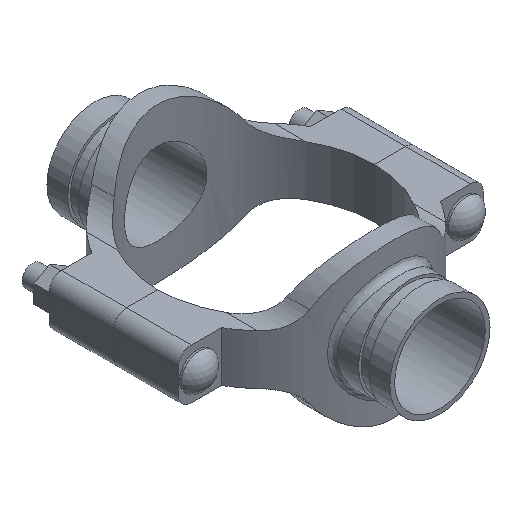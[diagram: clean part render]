
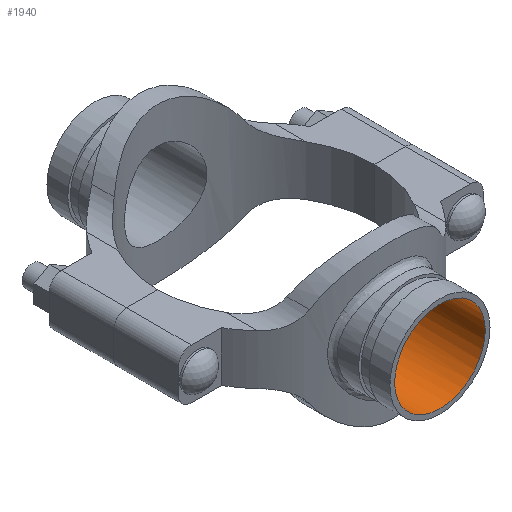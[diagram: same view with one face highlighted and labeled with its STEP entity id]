
A CAD part, isometric view. The second image highlights one B-rep face of the part: STEP entity #1940.
In plain terms, the highlighted cylindrical face has radius 34.493 mm (diameter 68.986 mm), a full revolution.
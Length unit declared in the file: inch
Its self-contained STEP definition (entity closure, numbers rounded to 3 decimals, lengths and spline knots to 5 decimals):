
#48=B_SPLINE_CURVE_WITH_KNOTS('',3,(#3964,#3965,#3966,#3967,#3968,#3969,
#3970,#3971,#3972,#3973,#3974,#3975,#3976,#3977,#3978,#3979,#3980,#3981,
#3982,#3983,#3984,#3985,#3986,#3987,#3988,#3989,#3990,#3991,#3992,#3993,
#3994,#3995,#3996,#3997,#3998,#3999,#4000,#4001,#4002,#4003,#4004,#4005,
#4006,#4007,#4008,#4009,#4010,#4011,#4012,#4013,#4014,#4015,#4016,#4017,
#4018,#4019,#4020,#4021,#4022,#4023,#4024,#4025,#4026,#4027,#4028,#4029),
 .UNSPECIFIED.,.T.,.F.,(4,2,2,2,2,2,2,2,2,2,2,2,2,2,2,2,2,2,2,2,2,2,2,2,
2,2,2,2,2,2,2,2,4),(0.,0.65894,1.31787,1.97681,
2.63574,3.29387,3.952,4.61013,5.26826,
5.92639,6.58452,7.24265,7.90078,8.55972,
9.21865,9.87759,10.53652,11.19546,11.8544,
12.51333,13.17227,13.8304,14.48853,15.14666,
15.80479,16.46292,17.12105,17.77918,18.4373,
19.09624,19.75518,20.41411,21.07305),
 .UNSPECIFIED.);
#91=CYLINDRICAL_SURFACE('',#2173,1.358);
#206=FACE_OUTER_BOUND('',#326,.T.);
#326=EDGE_LOOP('',(#1556,#1557,#1558,#1559));
#474=LINE('',#3963,#620);
#620=VECTOR('',#2628,1.358);
#720=CIRCLE('',#2174,1.358);
#881=VERTEX_POINT('',#3960);
#882=VERTEX_POINT('',#3962);
#1120=EDGE_CURVE('',#881,#881,#720,.T.);
#1121=EDGE_CURVE('',#881,#882,#474,.T.);
#1122=EDGE_CURVE('',#882,#882,#48,.T.);
#1556=ORIENTED_EDGE('',*,*,#1120,.F.);
#1557=ORIENTED_EDGE('',*,*,#1121,.T.);
#1558=ORIENTED_EDGE('',*,*,#1122,.F.);
#1559=ORIENTED_EDGE('',*,*,#1121,.F.);
#1940=ADVANCED_FACE('',(#206),#91,.F.);
#2173=AXIS2_PLACEMENT_3D('',#3959,#2624,#2625);
#2174=AXIS2_PLACEMENT_3D('',#3961,#2626,#2627);
#2624=DIRECTION('center_axis',(0.,-1.,0.));
#2625=DIRECTION('ref_axis',(-1.,0.,0.));
#2626=DIRECTION('center_axis',(0.,-1.,0.));
#2627=DIRECTION('ref_axis',(-1.,0.,0.));
#2628=DIRECTION('',(0.,-1.,0.));
#3959=CARTESIAN_POINT('Origin',(0.,5.21,0.));
#3960=CARTESIAN_POINT('',(1.358,5.21,0.));
#3961=CARTESIAN_POINT('Origin',(0.,5.21,0.));
#3962=CARTESIAN_POINT('',(1.358,2.95268,0.));
#3963=CARTESIAN_POINT('',(1.358,5.21,0.));
#3964=CARTESIAN_POINT('Ctrl Pts',(1.358,2.95268,0.));
#3965=CARTESIAN_POINT('Ctrl Pts',(1.358,2.95268,-0.08647));
#3966=CARTESIAN_POINT('Ctrl Pts',(1.34961,2.95659,-0.1755));
#3967=CARTESIAN_POINT('Ctrl Pts',(1.3147,2.97227,-0.35185));
#3968=CARTESIAN_POINT('Ctrl Pts',(1.2882,2.98403,-0.43917));
#3969=CARTESIAN_POINT('Ctrl Pts',(1.21861,3.01312,-0.60607));
#3970=CARTESIAN_POINT('Ctrl Pts',(1.17547,3.03044,-0.6858));
#3971=CARTESIAN_POINT('Ctrl Pts',(1.07616,3.06711,-0.83302));
#3972=CARTESIAN_POINT('Ctrl Pts',(1.01999,3.08643,-0.90052));
#3973=CARTESIAN_POINT('Ctrl Pts',(0.90059,3.12335,-1.01991));
#3974=CARTESIAN_POINT('Ctrl Pts',(0.83313,3.14231,-1.07608));
#3975=CARTESIAN_POINT('Ctrl Pts',(0.68589,3.1777,-1.17542));
#3976=CARTESIAN_POINT('Ctrl Pts',(0.60611,3.1941,-1.2186));
#3977=CARTESIAN_POINT('Ctrl Pts',(0.4391,3.22131,-1.28823));
#3978=CARTESIAN_POINT('Ctrl Pts',(0.35172,3.23212,-1.31474));
#3979=CARTESIAN_POINT('Ctrl Pts',(0.17536,3.24647,-1.34963));
#3980=CARTESIAN_POINT('Ctrl Pts',(0.08637,3.25,-1.358));
#3981=CARTESIAN_POINT('Ctrl Pts',(-0.08637,3.25,-1.358));
#3982=CARTESIAN_POINT('Ctrl Pts',(-0.17536,3.24647,-1.34963));
#3983=CARTESIAN_POINT('Ctrl Pts',(-0.35172,3.23212,-1.31474));
#3984=CARTESIAN_POINT('Ctrl Pts',(-0.4391,3.22131,-1.28823));
#3985=CARTESIAN_POINT('Ctrl Pts',(-0.60611,3.1941,-1.2186));
#3986=CARTESIAN_POINT('Ctrl Pts',(-0.68589,3.1777,-1.17542));
#3987=CARTESIAN_POINT('Ctrl Pts',(-0.83313,3.14231,-1.07608));
#3988=CARTESIAN_POINT('Ctrl Pts',(-0.90059,3.12335,-1.01991));
#3989=CARTESIAN_POINT('Ctrl Pts',(-1.01999,3.08643,-0.90052));
#3990=CARTESIAN_POINT('Ctrl Pts',(-1.07616,3.06711,-0.83302));
#3991=CARTESIAN_POINT('Ctrl Pts',(-1.17547,3.03044,-0.6858));
#3992=CARTESIAN_POINT('Ctrl Pts',(-1.21861,3.01312,-0.60607));
#3993=CARTESIAN_POINT('Ctrl Pts',(-1.2882,2.98403,-0.43917));
#3994=CARTESIAN_POINT('Ctrl Pts',(-1.3147,2.97227,-0.35185));
#3995=CARTESIAN_POINT('Ctrl Pts',(-1.34961,2.95659,-0.1755));
#3996=CARTESIAN_POINT('Ctrl Pts',(-1.358,2.95268,-0.08647));
#3997=CARTESIAN_POINT('Ctrl Pts',(-1.358,2.95268,0.08647));
#3998=CARTESIAN_POINT('Ctrl Pts',(-1.34961,2.95659,0.1755));
#3999=CARTESIAN_POINT('Ctrl Pts',(-1.3147,2.97227,0.35185));
#4000=CARTESIAN_POINT('Ctrl Pts',(-1.2882,2.98403,0.43917));
#4001=CARTESIAN_POINT('Ctrl Pts',(-1.21861,3.01312,0.60607));
#4002=CARTESIAN_POINT('Ctrl Pts',(-1.17547,3.03044,0.6858));
#4003=CARTESIAN_POINT('Ctrl Pts',(-1.07616,3.06711,0.83302));
#4004=CARTESIAN_POINT('Ctrl Pts',(-1.01999,3.08643,0.90052));
#4005=CARTESIAN_POINT('Ctrl Pts',(-0.90059,3.12335,1.01991));
#4006=CARTESIAN_POINT('Ctrl Pts',(-0.83313,3.14231,1.07608));
#4007=CARTESIAN_POINT('Ctrl Pts',(-0.68589,3.1777,1.17542));
#4008=CARTESIAN_POINT('Ctrl Pts',(-0.60611,3.1941,1.2186));
#4009=CARTESIAN_POINT('Ctrl Pts',(-0.4391,3.22131,1.28823));
#4010=CARTESIAN_POINT('Ctrl Pts',(-0.35172,3.23212,1.31474));
#4011=CARTESIAN_POINT('Ctrl Pts',(-0.17536,3.24647,1.34963));
#4012=CARTESIAN_POINT('Ctrl Pts',(-0.08637,3.25,1.358));
#4013=CARTESIAN_POINT('Ctrl Pts',(0.08637,3.25,1.358));
#4014=CARTESIAN_POINT('Ctrl Pts',(0.17536,3.24647,1.34963));
#4015=CARTESIAN_POINT('Ctrl Pts',(0.35172,3.23212,1.31474));
#4016=CARTESIAN_POINT('Ctrl Pts',(0.4391,3.22131,1.28823));
#4017=CARTESIAN_POINT('Ctrl Pts',(0.60611,3.1941,1.2186));
#4018=CARTESIAN_POINT('Ctrl Pts',(0.68589,3.1777,1.17542));
#4019=CARTESIAN_POINT('Ctrl Pts',(0.83313,3.14231,1.07608));
#4020=CARTESIAN_POINT('Ctrl Pts',(0.90059,3.12335,1.01991));
#4021=CARTESIAN_POINT('Ctrl Pts',(1.01999,3.08643,0.90052));
#4022=CARTESIAN_POINT('Ctrl Pts',(1.07616,3.06711,0.83302));
#4023=CARTESIAN_POINT('Ctrl Pts',(1.17547,3.03044,0.6858));
#4024=CARTESIAN_POINT('Ctrl Pts',(1.21861,3.01312,0.60607));
#4025=CARTESIAN_POINT('Ctrl Pts',(1.2882,2.98403,0.43917));
#4026=CARTESIAN_POINT('Ctrl Pts',(1.3147,2.97227,0.35185));
#4027=CARTESIAN_POINT('Ctrl Pts',(1.34961,2.95659,0.1755));
#4028=CARTESIAN_POINT('Ctrl Pts',(1.358,2.95268,0.08647));
#4029=CARTESIAN_POINT('Ctrl Pts',(1.358,2.95268,0.));
